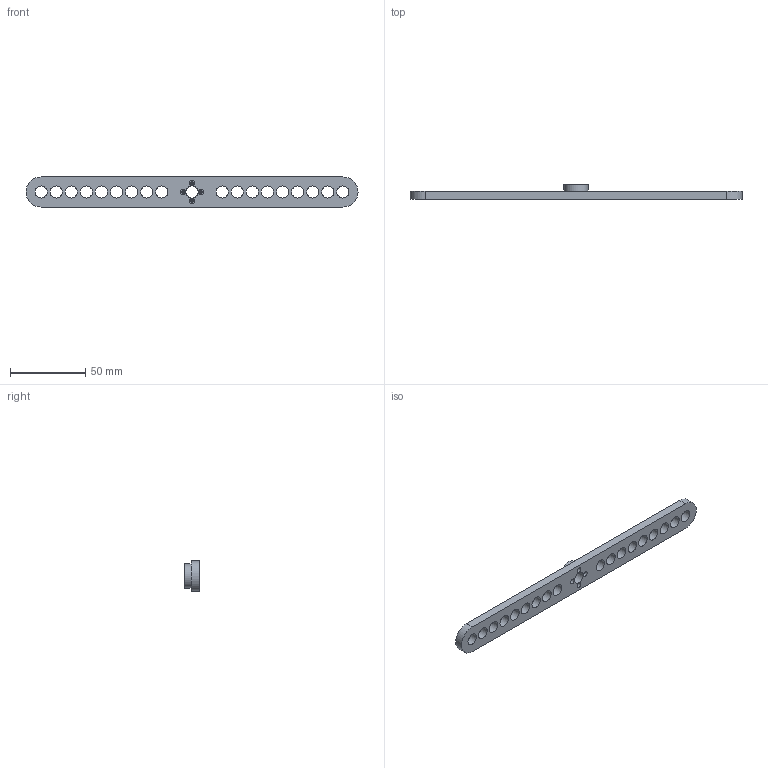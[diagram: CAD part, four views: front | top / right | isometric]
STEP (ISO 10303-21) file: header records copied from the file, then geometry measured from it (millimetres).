
FILE_DESCRIPTION(/* description */ (''),/* implementation_level */ '2;1');
FILE_NAME(/* name */ 'Link.step',/* time_stamp */ '2026-09-01T18:31:35+04:00',/* author */ (''),/* organization */ (''),/* preprocessor_version */ 'ST-DEVELOPER v20.1',/* originating_system */ 'Autodesk Translation Framework v15.8.0.0',/* authorisation */ '');
FILE_SCHEMA (('AUTOMOTIVE_DESIGN { 1 0 10303 214 3 1 1 }'));
Length unit declared in the file: millimetre
Products named in the file (1): 2026-08-23-13-27-59-025
Bounding box: 220 x 9.75 x 20 mm (x, y, z)
Volume: 18880.8 mm3; surface area: 12513.5 mm2
Topology: 1 solids, 1 shells, 39 faces, 96 edges, 64 vertices
Faces by surface type: cylinder 30, plane 9
Full cylindrical faces by diameter (mm): 1.6 x4, 3.5 x4, 8 x19, 16 x1
Entity records: 1322 total; most frequent: DIRECTION 236, CARTESIAN_POINT 200, ORIENTED_EDGE 192, AXIS2_PLACEMENT_3D 100, EDGE_CURVE 96, EDGE_LOOP 90, VERTEX_POINT 64, CIRCLE 60
